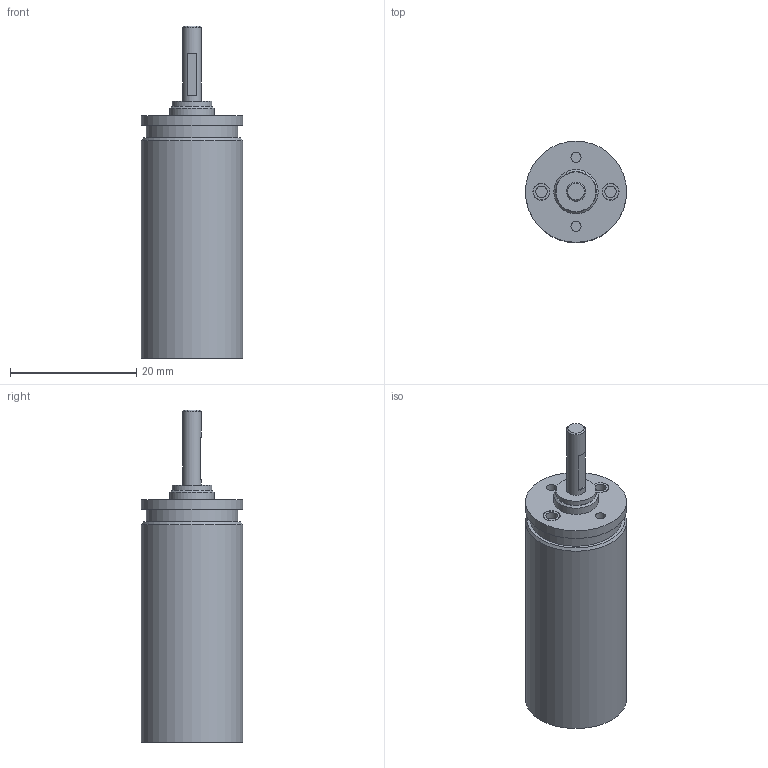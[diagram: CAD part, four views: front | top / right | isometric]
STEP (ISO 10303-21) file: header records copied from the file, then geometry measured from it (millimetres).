
FILE_DESCRIPTION(/* description */ (''),/* implementation_level */ '2;1');
FILE_NAME(/* name */ '15-5_7.stp',/* time_stamp */ '2016-08-24T14:26:19+02:00',/* author */ ('DR. FRITZ FAULHABER GmbH & Co. KG'),/* organization */ ('DR. FRITZ FAULHABER GmbH & Co. KG'),/* preprocessor_version */ 'ST-DEVELOPER v16',/* originating_system */ 'SIEMENS PLM Software NX 10.0',/* authorisation */ '');
FILE_SCHEMA (('AUTOMOTIVE_DESIGN { 1 0 10303 214 3 1 1 1 }'));
Length unit declared in the file: millimetre
Products named in the file (1): H00000513_A
Bounding box: 16 x 16 x 52.5 mm (x, y, z)
Volume: 5424.9 mm3; surface area: 3259.2 mm2
Topology: 1 solids, 1 shells, 41 faces, 64 edges, 42 vertices
Faces by surface type: plane 21, cylinder 17, cone 3
Full cylindrical faces by diameter (mm): 1.6 x2, 1.8 x2, 2.48 x1, 2.584 x2, 2.684 x2, 3 x1, 6 x1, 6.3 x1, 7 x1, 14.5 x1, 15 x1, 16 x2
Entity records: 856 total; most frequent: DIRECTION 166, CARTESIAN_POINT 126, ORIENTED_EDGE 86, AXIS2_PLACEMENT_3D 81, EDGE_LOOP 78, FACE_BOUND 69, EDGE_CURVE 43, ADVANCED_FACE 41
